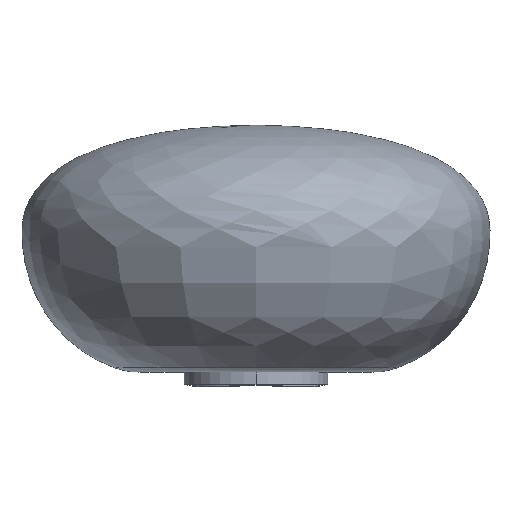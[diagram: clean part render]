
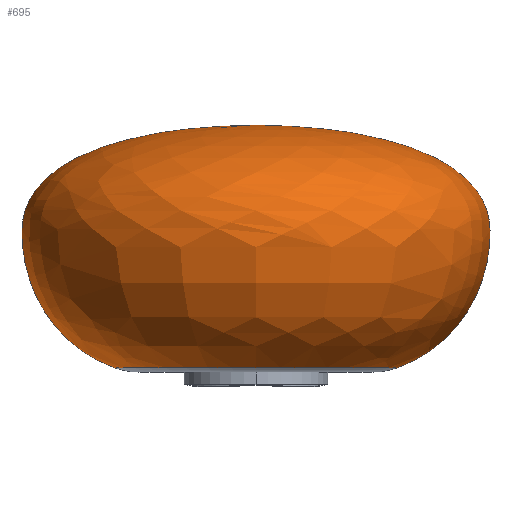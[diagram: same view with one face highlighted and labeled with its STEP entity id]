
A CAD part, top view. The second image highlights one B-rep face of the part: STEP entity #695.
In plain terms, the highlighted free-form (B-spline) face has degree [3, 3] with [6, 4] control points.
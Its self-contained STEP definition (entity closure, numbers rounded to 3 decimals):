
#48 = FACE_OUTER_BOUND ( 'NONE', #1284, .T. ) ;
#93 = B_SPLINE_CURVE_WITH_KNOTS ( 'NONE', 3,
 ( #1560, #1310, #138, #652, #157, #546 ),
 .UNSPECIFIED., .F., .F.,
 ( 4, 1, 1, 4 ),
 ( 0., 0.504, 0.602, 0.973 ),
 .UNSPECIFIED. ) ;
#105 = DIRECTION ( 'NONE',  ( 0., 1., 0. ) ) ;
#112 = CARTESIAN_POINT ( 'NONE',  ( -55.554, 103.061, 356.877 ) ) ;
#115 = EDGE_CURVE ( 'NONE', #1004, #1250, #388, .T. ) ;
#138 = CARTESIAN_POINT ( 'NONE',  ( -53.932, 194.071, 15.77 ) ) ;
#148 = CARTESIAN_POINT ( 'NONE',  ( 260.002, 57.384, 15.77 ) ) ;
#157 = CARTESIAN_POINT ( 'NONE',  ( -30.002, 57.384, 15.77 ) ) ;
#203 = CARTESIAN_POINT ( 'NONE',  ( 217.347, 41.606, 15.77 ) ) ;
#217 = CARTESIAN_POINT ( 'NONE',  ( 285.554, 103.061, 356.877 ) ) ;
#226 = CARTESIAN_POINT ( 'NONE',  ( -55.554, 103.061, 15.77 ) ) ;
#274 = CARTESIAN_POINT ( 'NONE',  ( 285.554, 103.061, 15.77 ) ) ;
#288 = CARTESIAN_POINT ( 'NONE',  ( 34.18, 217.2, 15.77 ) ) ;
#315 = B_SPLINE_CURVE_WITH_KNOTS ( 'NONE', 3,
 ( #1173, #401, #1436, #274, #148, #665 ),
 .UNSPECIFIED., .F., .F.,
 ( 4, 1, 1, 4 ),
 ( 0., 0.504, 0.602, 0.973 ),
 .UNSPECIFIED. ) ;
#349 = CARTESIAN_POINT ( 'NONE',  ( -53.932, 194.071, 353.635 ) ) ;
#366 = CARTESIAN_POINT ( 'NONE',  ( 12.653, 41.606, 220.464 ) ) ;
#375 = CARTESIAN_POINT ( 'NONE',  ( -30.002, 57.384, 15.77 ) ) ;
#388 = CIRCLE ( 'NONE', #1518, 102.347 ) ;
#394 = DIRECTION ( 'NONE',  ( -1., 0., 0. ) ) ;
#401 = CARTESIAN_POINT ( 'NONE',  ( 195.82, 217.2, 15.77 ) ) ;
#433 = CARTESIAN_POINT ( 'NONE',  ( 115., 217.2, 15.77 ) ) ;
#498 = CARTESIAN_POINT ( 'NONE',  ( 12.653, 41.606, 15.77 ) ) ;
#511 = ORIENTED_EDGE ( 'NONE', *, *, #1612, .T. ) ;
#546 = CARTESIAN_POINT ( 'NONE',  ( 12.653, 41.606, 15.77 ) ) ;
#585 = CARTESIAN_POINT ( 'NONE',  ( 115., 217.2, 15.77 ) ) ;
#609 = CARTESIAN_POINT ( 'NONE',  ( 283.932, 194.071, 15.77 ) ) ;
#622 = CARTESIAN_POINT ( 'NONE',  ( 217.347, 41.606, 220.464 ) ) ;
#652 = CARTESIAN_POINT ( 'NONE',  ( -55.554, 103.061, 15.77 ) ) ;
#665 = CARTESIAN_POINT ( 'NONE',  ( 217.347, 41.606, 15.77 ) ) ;
#695 = ADVANCED_FACE ( 'NONE', ( #48 ), #731, .T. ) ;
#731 =( BOUNDED_SURFACE ( )  B_SPLINE_SURFACE ( 3, 3, ( 
 ( #1081, #1451, #433, #585 ),
 ( #288, #809, #1329, #1130 ),
 ( #1009, #349, #744, #609 ),
 ( #226, #112, #217, #883 ),
 ( #375, #1113, #737, #1501 ),
 ( #498, #366, #622, #1507 ) ),
 .UNSPECIFIED., .F., .F., .T. ) 
 B_SPLINE_SURFACE_WITH_KNOTS ( ( 4, 1, 1, 4 ),
 ( 4, 4 ),
 ( 0., 0.504, 0.602, 0.973 ),
 ( 0., 1. ),
 .UNSPECIFIED. ) 
 GEOMETRIC_REPRESENTATION_ITEM ( )  RATIONAL_B_SPLINE_SURFACE ( (
 ( 1., 0.333, 0.333, 1.),
 ( 1., 0.333, 0.333, 1.),
 ( 1., 0.333, 0.333, 1.),
 ( 1., 0.333, 0.333, 1.),
 ( 1., 0.333, 0.333, 1.),
 ( 1., 0.333, 0.333, 1.) ) ) 
 REPRESENTATION_ITEM ( '' )  SURFACE ( )  );
#737 = CARTESIAN_POINT ( 'NONE',  ( 260.002, 57.384, 305.774 ) ) ;
#744 = CARTESIAN_POINT ( 'NONE',  ( 283.932, 194.071, 353.635 ) ) ;
#809 = CARTESIAN_POINT ( 'NONE',  ( 34.18, 217.2, 177.41 ) ) ;
#883 = CARTESIAN_POINT ( 'NONE',  ( 285.554, 103.061, 15.77 ) ) ;
#976 = ORIENTED_EDGE ( 'NONE', *, *, #1623, .F. ) ;
#1004 = VERTEX_POINT ( 'NONE', #1665 ) ;
#1009 = CARTESIAN_POINT ( 'NONE',  ( -53.932, 194.071, 15.77 ) ) ;
#1081 = CARTESIAN_POINT ( 'NONE',  ( 115., 217.2, 15.77 ) ) ;
#1113 = CARTESIAN_POINT ( 'NONE',  ( -30.002, 57.384, 305.774 ) ) ;
#1130 = CARTESIAN_POINT ( 'NONE',  ( 195.82, 217.2, 15.77 ) ) ;
#1173 = CARTESIAN_POINT ( 'NONE',  ( 115., 217.2, 15.77 ) ) ;
#1231 = VERTEX_POINT ( 'NONE', #1395 ) ;
#1250 = VERTEX_POINT ( 'NONE', #203 ) ;
#1267 = CARTESIAN_POINT ( 'NONE',  ( 115., 41.606, 15.77 ) ) ;
#1284 = EDGE_LOOP ( 'NONE', ( #976, #511, #1494 ) ) ;
#1310 = CARTESIAN_POINT ( 'NONE',  ( 34.18, 217.2, 15.77 ) ) ;
#1329 = CARTESIAN_POINT ( 'NONE',  ( 195.82, 217.2, 177.41 ) ) ;
#1395 = CARTESIAN_POINT ( 'NONE',  ( 115., 217.2, 15.77 ) ) ;
#1436 = CARTESIAN_POINT ( 'NONE',  ( 283.932, 194.071, 15.77 ) ) ;
#1451 = CARTESIAN_POINT ( 'NONE',  ( 115., 217.2, 15.77 ) ) ;
#1494 = ORIENTED_EDGE ( 'NONE', *, *, #115, .T. ) ;
#1501 = CARTESIAN_POINT ( 'NONE',  ( 260.002, 57.384, 15.77 ) ) ;
#1507 = CARTESIAN_POINT ( 'NONE',  ( 217.347, 41.606, 15.77 ) ) ;
#1518 = AXIS2_PLACEMENT_3D ( 'NONE', #1267, #105, #394 ) ;
#1560 = CARTESIAN_POINT ( 'NONE',  ( 115., 217.2, 15.77 ) ) ;
#1612 = EDGE_CURVE ( 'NONE', #1231, #1004, #93, .T. ) ;
#1623 = EDGE_CURVE ( 'NONE', #1231, #1250, #315, .T. ) ;
#1665 = CARTESIAN_POINT ( 'NONE',  ( 12.653, 41.606, 15.77 ) ) ;
